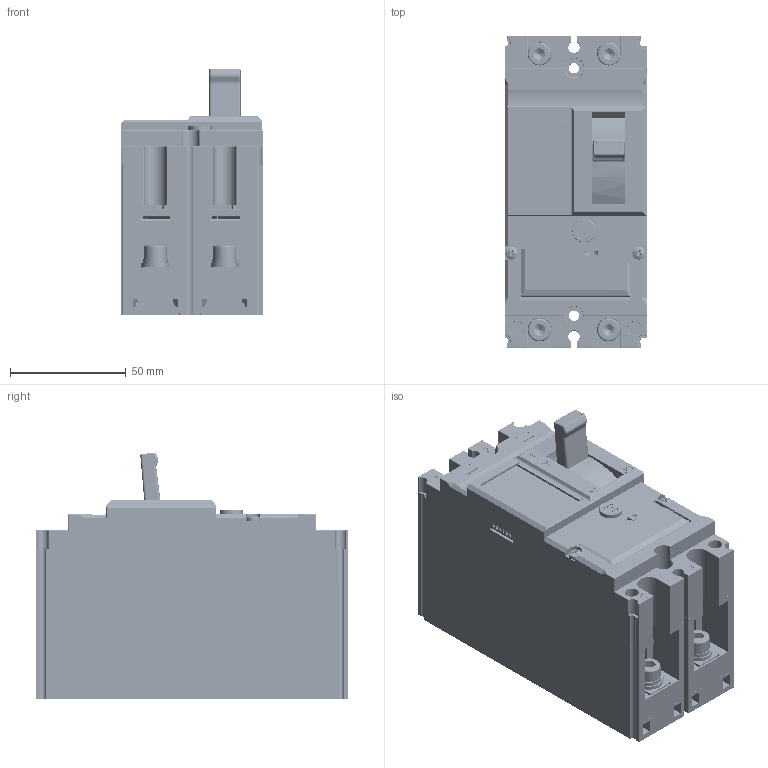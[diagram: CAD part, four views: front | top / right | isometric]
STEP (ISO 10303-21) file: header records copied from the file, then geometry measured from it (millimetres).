
FILE_DESCRIPTION (( 'STEP AP214' ), '1' );
FILE_NAME ('MNX125_160L_M_H_2P ﾈﾇﾌ.STEP', '2024-12-04T12:25:56', ( '' ), ( '' ), 'SwSTEP 2.0', 'SolidWorks 2022', '' );
FILE_SCHEMA (( 'AUTOMOTIVE_DESIGN' ));
Length unit declared in the file: millimetre
Products named in the file (1): MNX125_160L_M_H_2P ИЗМ
Bounding box: 61.7 x 135 x 106.61 mm (x, y, z)
Volume: 251017.9 mm3; surface area: 260793.3 mm2
Topology: 52 solids, 54 shells, 7466 faces, 20888 edges, 13554 vertices
Faces by surface type: plane 4321, cylinder 2493, cone 249, torus 188, bspline 181, sphere 34
Entity records: 263454 total; most frequent: CARTESIAN_POINT 71131, ORIENTED_EDGE 41686, DIRECTION 38621, EDGE_CURVE 20843, LINE 14187, VECTOR 14187, VERTEX_POINT 13554, AXIS2_PLACEMENT_3D 12217
